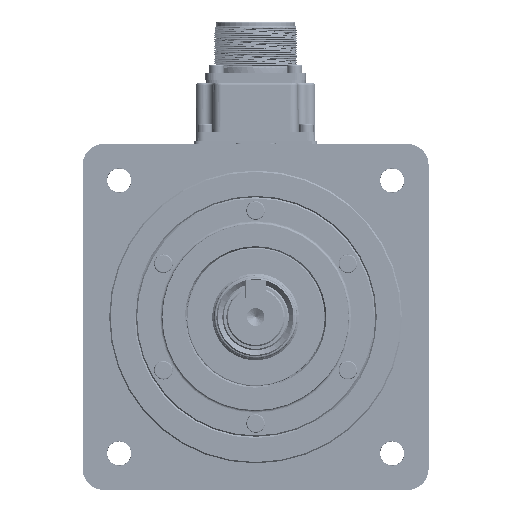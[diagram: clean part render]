
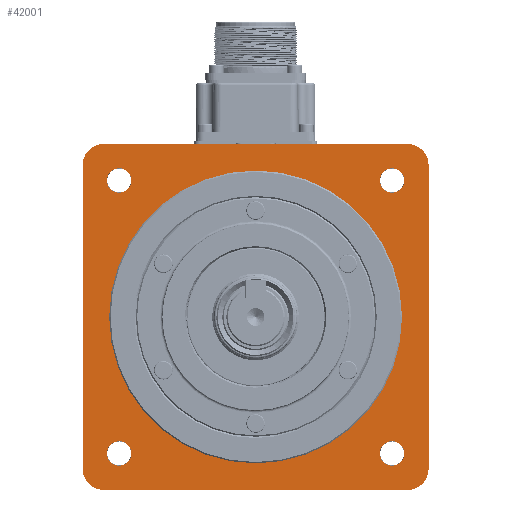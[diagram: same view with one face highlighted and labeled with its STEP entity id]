
A CAD part, front view. The second image highlights one B-rep face of the part: STEP entity #42001.
In plain terms, the highlighted planar face has unit normal (0, -1, 0).
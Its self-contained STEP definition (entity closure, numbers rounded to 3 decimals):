
#1109=LINE('',#60211,#4296);
#1188=LINE('',#63115,#4375);
#1193=LINE('',#63125,#4380);
#1198=LINE('',#63137,#4385);
#4296=VECTOR('',#48664,1000.);
#4375=VECTOR('',#49361,1000.);
#4380=VECTOR('',#49372,1000.);
#4385=VECTOR('',#49387,1000.);
#9071=PLANE('',#45004);
#11047=ORIENTED_EDGE('',*,*,#22196,.F.);
#11048=ORIENTED_EDGE('',*,*,#22158,.F.);
#11049=ORIENTED_EDGE('',*,*,#22155,.T.);
#11050=ORIENTED_EDGE('',*,*,#22166,.F.);
#11051=ORIENTED_EDGE('',*,*,#22161,.T.);
#11052=ORIENTED_EDGE('',*,*,#22172,.F.);
#11053=ORIENTED_EDGE('',*,*,#22169,.T.);
#11054=ORIENTED_EDGE('',*,*,#22173,.F.);
#11055=ORIENTED_EDGE('',*,*,#21799,.T.);
#11056=ORIENTED_EDGE('',*,*,#22114,.F.);
#11057=ORIENTED_EDGE('',*,*,#22125,.F.);
#11058=ORIENTED_EDGE('',*,*,#22135,.F.);
#11059=ORIENTED_EDGE('',*,*,#22105,.F.);
#21799=EDGE_CURVE('',#27543,#27542,#1109,.T.);
#22105=EDGE_CURVE('',#27754,#27754,#31744,.F.);
#22114=EDGE_CURVE('',#27762,#27762,#31750,.F.);
#22125=EDGE_CURVE('',#27772,#27772,#31758,.F.);
#22135=EDGE_CURVE('',#27782,#27782,#31764,.F.);
#22155=EDGE_CURVE('',#27793,#27792,#1188,.T.);
#22158=EDGE_CURVE('',#27793,#27542,#31770,.F.);
#22161=EDGE_CURVE('',#27795,#27794,#1193,.T.);
#22166=EDGE_CURVE('',#27795,#27792,#31773,.F.);
#22169=EDGE_CURVE('',#27797,#27796,#1198,.T.);
#22172=EDGE_CURVE('',#27797,#27794,#31774,.F.);
#22173=EDGE_CURVE('',#27543,#27796,#31775,.F.);
#22196=EDGE_CURVE('',#27810,#27810,#31790,.T.);
#27542=VERTEX_POINT('',#60210);
#27543=VERTEX_POINT('',#60212);
#27754=VERTEX_POINT('',#63011);
#27762=VERTEX_POINT('',#63030);
#27772=VERTEX_POINT('',#63055);
#27782=VERTEX_POINT('',#63077);
#27792=VERTEX_POINT('',#63114);
#27793=VERTEX_POINT('',#63116);
#27794=VERTEX_POINT('',#63124);
#27795=VERTEX_POINT('',#63126);
#27796=VERTEX_POINT('',#63136);
#27797=VERTEX_POINT('',#63138);
#27810=VERTEX_POINT('',#63202);
#31744=CIRCLE('',#44913,4.6);
#31750=CIRCLE('',#44921,4.6);
#31758=CIRCLE('',#44933,4.6);
#31764=CIRCLE('',#44941,4.6);
#31770=CIRCLE('',#44956,8.);
#31773=CIRCLE('',#44961,8.);
#31774=CIRCLE('',#44964,8.);
#31775=CIRCLE('',#44966,8.);
#31790=CIRCLE('',#45003,55.);
#33270=EDGE_LOOP('',(#11047));
#33271=EDGE_LOOP('',(#11048,#11049,#11050,#11051,#11052,#11053,#11054,#11055));
#33272=EDGE_LOOP('',(#11056));
#33273=EDGE_LOOP('',(#11057));
#33274=EDGE_LOOP('',(#11058));
#33275=EDGE_LOOP('',(#11059));
#36824=FACE_BOUND('',#33270,.T.);
#36825=FACE_BOUND('',#33271,.T.);
#36826=FACE_BOUND('',#33272,.T.);
#36827=FACE_BOUND('',#33273,.T.);
#36828=FACE_BOUND('',#33274,.T.);
#36829=FACE_BOUND('',#33275,.T.);
#42001=ADVANCED_FACE('',(#36824,#36825,#36826,#36827,#36828,#36829),#9071,
 .F.);
#44913=AXIS2_PLACEMENT_3D('',#63010,#49253,#49254);
#44921=AXIS2_PLACEMENT_3D('',#63029,#49272,#49273);
#44933=AXIS2_PLACEMENT_3D('',#63054,#49299,#49300);
#44941=AXIS2_PLACEMENT_3D('',#63076,#49319,#49320);
#44956=AXIS2_PLACEMENT_3D('',#63120,#49366,#49367);
#44961=AXIS2_PLACEMENT_3D('',#63132,#49381,#49382);
#44964=AXIS2_PLACEMENT_3D('',#63142,#49392,#49393);
#44966=AXIS2_PLACEMENT_3D('',#63144,#49396,#49397);
#45003=AXIS2_PLACEMENT_3D('',#63201,#49478,#49479);
#45004=AXIS2_PLACEMENT_3D('',#63203,#49480,#49481);
#48664=DIRECTION('',(-1.,0.,0.));
#49253=DIRECTION('',(0.,1.,0.));
#49254=DIRECTION('',(0.,0.,1.));
#49272=DIRECTION('',(0.,1.,0.));
#49273=DIRECTION('',(0.,0.,1.));
#49299=DIRECTION('',(0.,1.,0.));
#49300=DIRECTION('',(0.,0.,1.));
#49319=DIRECTION('',(0.,1.,0.));
#49320=DIRECTION('',(0.,0.,1.));
#49361=DIRECTION('',(0.,0.,-1.));
#49366=DIRECTION('',(0.,-1.,0.));
#49367=DIRECTION('',(0.,0.,-1.));
#49372=DIRECTION('',(1.,0.,0.));
#49381=DIRECTION('',(0.,-1.,0.));
#49382=DIRECTION('',(0.,0.,-1.));
#49387=DIRECTION('',(0.,0.,1.));
#49392=DIRECTION('',(0.,-1.,0.));
#49393=DIRECTION('',(0.,0.,-1.));
#49396=DIRECTION('',(0.,-1.,0.));
#49397=DIRECTION('',(0.,0.,-1.));
#49478=DIRECTION('',(0.,-1.,0.));
#49479=DIRECTION('',(0.,0.,-1.));
#49480=DIRECTION('',(0.,1.,0.));
#49481=DIRECTION('',(0.,0.,1.));
#60210=CARTESIAN_POINT('',(-57.,1.2,65.));
#60211=CARTESIAN_POINT('',(65.,1.2,65.));
#60212=CARTESIAN_POINT('',(57.,1.2,65.));
#63010=CARTESIAN_POINT('',(51.265,1.2,51.265));
#63011=CARTESIAN_POINT('',(51.265,1.2,55.866));
#63029=CARTESIAN_POINT('',(-51.265,1.2,51.265));
#63030=CARTESIAN_POINT('',(-51.265,1.2,55.866));
#63054=CARTESIAN_POINT('',(-51.265,1.2,-51.265));
#63055=CARTESIAN_POINT('',(-51.265,1.2,-46.665));
#63076=CARTESIAN_POINT('',(51.265,1.2,-51.265));
#63077=CARTESIAN_POINT('',(51.265,1.2,-46.665));
#63114=CARTESIAN_POINT('',(-65.,1.2,-57.));
#63115=CARTESIAN_POINT('',(-65.,1.2,65.));
#63116=CARTESIAN_POINT('',(-65.,1.2,57.));
#63120=CARTESIAN_POINT('',(-57.,1.2,57.));
#63124=CARTESIAN_POINT('',(57.,1.2,-65.));
#63125=CARTESIAN_POINT('',(-65.,1.2,-65.));
#63126=CARTESIAN_POINT('',(-57.,1.2,-65.));
#63132=CARTESIAN_POINT('',(-57.,1.2,-57.));
#63136=CARTESIAN_POINT('',(65.,1.2,57.));
#63137=CARTESIAN_POINT('',(65.,1.2,-65.));
#63138=CARTESIAN_POINT('',(65.,1.2,-57.));
#63142=CARTESIAN_POINT('',(57.,1.2,-57.));
#63144=CARTESIAN_POINT('',(57.,1.2,57.));
#63201=CARTESIAN_POINT('',(0.,1.2,0.));
#63202=CARTESIAN_POINT('',(0.,1.2,-55.));
#63203=CARTESIAN_POINT('',(0.,1.2,55.));
